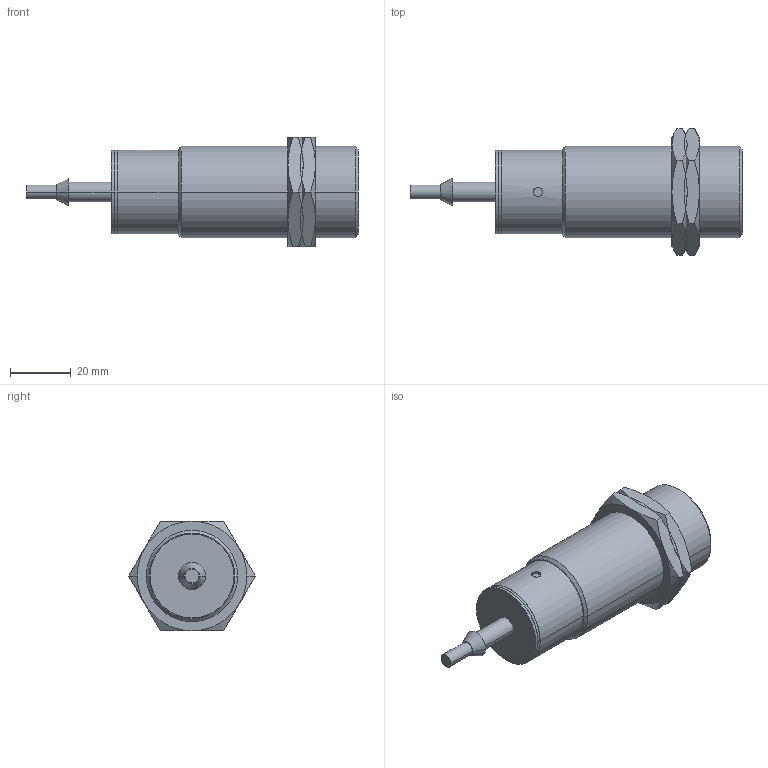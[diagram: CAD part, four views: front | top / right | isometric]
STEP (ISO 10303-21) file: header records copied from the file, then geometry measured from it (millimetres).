
FILE_DESCRIPTION( ( '' ), '1' );
FILE_NAME( '//partserver001.servicenet/client_exchange/iodir/jobs/output/wkb10602073_no0/STEP/ii5489_2_03.stp', '2008-05-15T11:37:36', ( '' ), ( '' ), ' ', ' ', ' ' );
FILE_SCHEMA( ( 'CONFIG_CONTROL_DESIGN' ) );
Length unit declared in the file: millimetre
Products named in the file (3): 1; 2; 3
Bounding box: 109 x 41.57 x 36 mm (x, y, z)
Volume: 59902.2 mm3; surface area: 13033.3 mm2
Topology: 3 solids, 3 shells, 95 faces, 197 edges, 117 vertices
Faces by surface type: cone 46, plane 27, cylinder 22
Entity records: 2634 total; most frequent: CARTESIAN_POINT 559, DIRECTION 432, ORIENTED_EDGE 394, EDGE_CURVE 197, AXIS2_PLACEMENT_3D 188, VERTEX_POINT 117, EDGE_LOOP 108, ADVANCED_FACE 95
